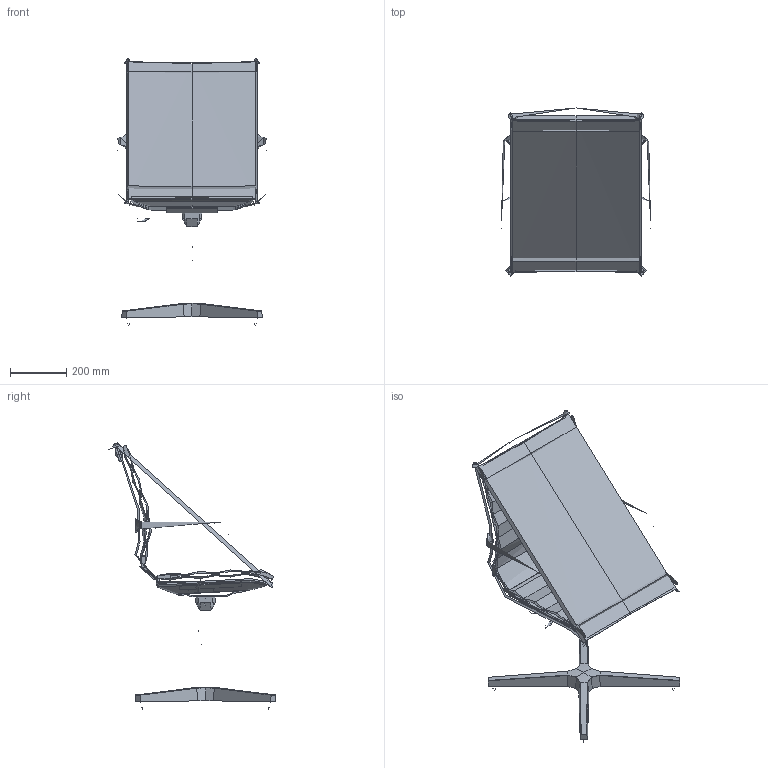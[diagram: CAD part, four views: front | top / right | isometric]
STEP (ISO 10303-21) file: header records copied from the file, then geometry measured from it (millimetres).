
FILE_DESCRIPTION(/* description */ (''),/* implementation_level */ '2;1');
FILE_NAME(/* name */ 'PLUTO6~4',/* time_stamp */ '2018-04-10T14:56:57+02:00',/* author */ (''),/* organization */ (''),/* preprocessor_version */ 'ST-DEVELOPER v16.5',/* originating_system */ '',/* authorisation */ '');
FILE_SCHEMA (('AUTOMOTIVE_DESIGN'));
Length unit declared in the file: millimetre
Products named in the file (1): Document
Bounding box: 531.43 x 595.62 x 945.48 mm (x, y, z)
Volume: 15750280.2 mm3; surface area: 2705020.4 mm2
Topology: 18 solids, 47 shells, 662 faces, 1682 edges, 1066 vertices
Faces by surface type: bspline 575, plane 87
Entity records: 69059 total; most frequent: CARTESIAN_POINT 58810, ORIENTED_EDGE 3180, EDGE_CURVE 1675, B_SPLINE_CURVE_WITH_KNOTS 1395, VERTEX_POINT 1062, ADVANCED_FACE 662, FACE_OUTER_BOUND 662, EDGE_LOOP 662
